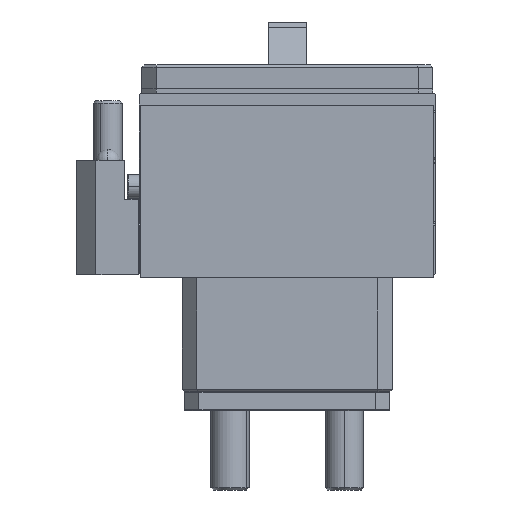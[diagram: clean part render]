
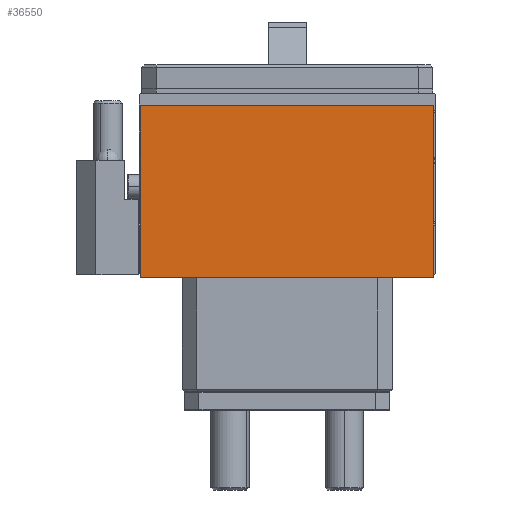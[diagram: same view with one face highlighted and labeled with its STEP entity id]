
A CAD part, left-side view. The second image highlights one B-rep face of the part: STEP entity #36550.
In plain terms, the highlighted planar face has unit normal (-1, 0, 0).
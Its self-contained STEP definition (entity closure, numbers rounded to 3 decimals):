
#4046 = ORIENTED_EDGE ( 'NONE', *, *, #40722, .T. ) ;
#4266 = VECTOR ( 'NONE', #35199, 1000. ) ;
#4610 = EDGE_CURVE ( 'NONE', #16283, #14704, #29008, .T. ) ;
#4922 = FACE_OUTER_BOUND ( 'NONE', #12769, .T. ) ;
#5432 = CARTESIAN_POINT ( 'NONE',  ( 0., -30.75, 36. ) ) ;
#7662 = CARTESIAN_POINT ( 'NONE',  ( 0., 30.75, 0. ) ) ;
#8009 = ORIENTED_EDGE ( 'NONE', *, *, #23542, .F. ) ;
#8506 = CARTESIAN_POINT ( 'NONE',  ( 0., 30.75, 36. ) ) ;
#8706 = VERTEX_POINT ( 'NONE', #13486 ) ;
#10151 = ORIENTED_EDGE ( 'NONE', *, *, #32902, .T. ) ;
#12769 = EDGE_LOOP ( 'NONE', ( #10151, #24535, #8009, #4046 ) ) ;
#13486 = CARTESIAN_POINT ( 'NONE',  ( 0., 30.75, 36. ) ) ;
#13798 = VECTOR ( 'NONE', #21442, 1000. ) ;
#14704 = VERTEX_POINT ( 'NONE', #35167 ) ;
#15448 = DIRECTION ( 'NONE',  ( 0., 0., -1. ) ) ;
#16283 = VERTEX_POINT ( 'NONE', #5432 ) ;
#17136 = DIRECTION ( 'NONE',  ( 0., -1., 0. ) ) ;
#20069 = LINE ( 'NONE', #30225, #40016 ) ;
#20773 = DIRECTION ( 'NONE',  ( 0., 1., 0. ) ) ;
#21442 = DIRECTION ( 'NONE',  ( 0., -1., 0. ) ) ;
#21940 = AXIS2_PLACEMENT_3D ( 'NONE', #36492, #39417, #20773 ) ;
#23212 = CARTESIAN_POINT ( 'NONE',  ( 0., 30.75, 36. ) ) ;
#23542 = EDGE_CURVE ( 'NONE', #8706, #16283, #37160, .T. ) ;
#23883 = PLANE ( 'NONE',  #21940 ) ;
#24535 = ORIENTED_EDGE ( 'NONE', *, *, #4610, .F. ) ;
#26008 = VERTEX_POINT ( 'NONE', #7662 ) ;
#26300 = LINE ( 'NONE', #23212, #4266 ) ;
#27477 = VECTOR ( 'NONE', #15448, 1000. ) ;
#29008 = LINE ( 'NONE', #37858, #27477 ) ;
#30225 = CARTESIAN_POINT ( 'NONE',  ( 0., 30.75, 0. ) ) ;
#32902 = EDGE_CURVE ( 'NONE', #26008, #14704, #20069, .T. ) ;
#35167 = CARTESIAN_POINT ( 'NONE',  ( 0., -30.75, 0. ) ) ;
#35199 = DIRECTION ( 'NONE',  ( 0., 0., -1. ) ) ;
#36492 = CARTESIAN_POINT ( 'NONE',  ( 0., 30.75, 36. ) ) ;
#36550 = ADVANCED_FACE ( 'NONE', ( #4922 ), #23883, .F. ) ;
#37160 = LINE ( 'NONE', #8506, #13798 ) ;
#37858 = CARTESIAN_POINT ( 'NONE',  ( 0., -30.75, 36. ) ) ;
#39417 = DIRECTION ( 'NONE',  ( 1., 0., 0. ) ) ;
#40016 = VECTOR ( 'NONE', #17136, 1000. ) ;
#40722 = EDGE_CURVE ( 'NONE', #8706, #26008, #26300, .T. ) ;
